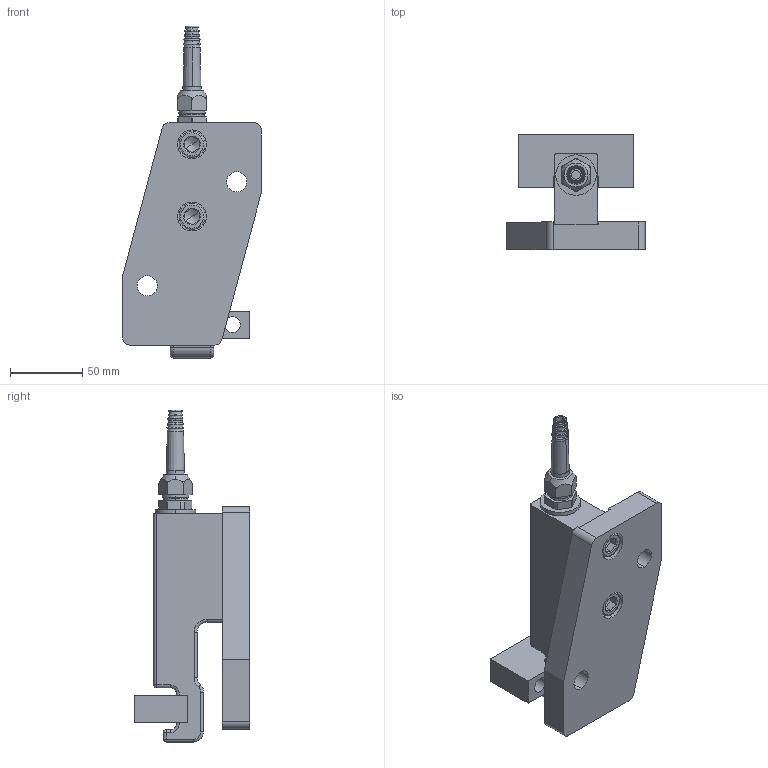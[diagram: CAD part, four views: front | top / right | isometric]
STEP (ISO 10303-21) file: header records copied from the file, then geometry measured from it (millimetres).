
FILE_DESCRIPTION (( 'STEP AP214' ), '1' );
FILE_NAME ('KIS-9 5-20 kN Module.STEP', '2021-06-30T11:14:19', ( '' ), ( '' ), 'SwSTEP 2.0', 'SolidWorks 2021', '' );
FILE_SCHEMA (( 'AUTOMOTIVE_DESIGN' ));
Length unit declared in the file: millimetre
Products named in the file (8): 500279r0; Pg9 - 1009.52 6_2_14; M12x20; 400354r0; KIS-9 5-20 kN Module; M26x1.5 - Pg9 - 6369829; Skyddsplåt KIS-9 5-20 kN; 600260r0
Assembly tree (9 placements, depth 2):
  KIS-9 5-20 kN Module
    500279r0
    400354r0
    M26x1.5 - Pg9 - 6369829
    Pg9 - 1009.52 6_2_14
    Skyddsplåt KIS-9 5-20 kN  x2
    600260r0
    M12x20  x2
Bounding box: 96 x 80 x 230 mm (x, y, z)
Volume: 431460.1 mm3; surface area: 92044.5 mm2
Topology: 9 solids, 12 shells, 375 faces, 856 edges, 516 vertices
Faces by surface type: cylinder 132, plane 118, cone 69, torus 30, bspline 20, sphere 6
Entity records: 14464 total; most frequent: CARTESIAN_POINT 6180, DIRECTION 1628, ORIENTED_EDGE 1538, EDGE_CURVE 769, AXIS2_PLACEMENT_3D 668, VERTEX_POINT 475, EDGE_LOOP 374, CIRCLE 341
